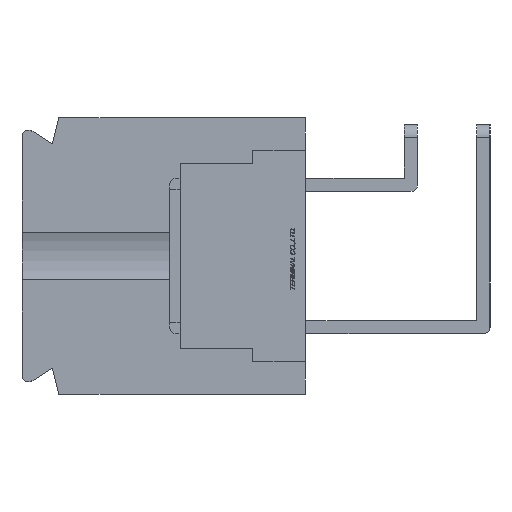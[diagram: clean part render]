
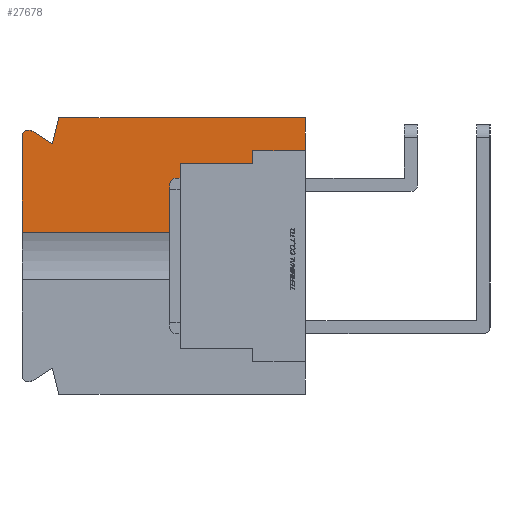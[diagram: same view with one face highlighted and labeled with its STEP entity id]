
A CAD part, left-side view. The second image highlights one B-rep face of the part: STEP entity #27678.
In plain terms, the highlighted planar face has unit normal (-1, 0, 0).
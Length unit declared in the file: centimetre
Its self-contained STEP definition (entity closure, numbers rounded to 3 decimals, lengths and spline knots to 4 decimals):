
#1251=CIRCLE('',#46389,0.05);
#1569=VERTEX_POINT('',#35920);
#1570=VERTEX_POINT('',#35922);
#3300=VERTEX_POINT('',#41406);
#3301=VERTEX_POINT('',#41408);
#3306=VERTEX_POINT('',#41419);
#3308=VERTEX_POINT('',#41425);
#3310=VERTEX_POINT('',#41431);
#3311=VERTEX_POINT('',#41438);
#3312=VERTEX_POINT('',#41440);
#3313=VERTEX_POINT('',#41442);
#3314=VERTEX_POINT('',#41444);
#4410=VECTOR('',#29706,1.);
#6380=VECTOR('',#33810,1.);
#6385=VECTOR('',#33824,1.);
#6388=VECTOR('',#33828,1.);
#6391=VECTOR('',#33832,1.);
#6392=VECTOR('',#33834,1.);
#6393=VECTOR('',#33835,1.);
#6394=VECTOR('',#33836,1.);
#6395=VECTOR('',#33837,1.);
#6396=VECTOR('',#33838,1.);
#7643=LINE('',#35921,#4410);
#9613=LINE('',#41407,#6380);
#9618=LINE('',#41424,#6385);
#9621=LINE('',#41430,#6388);
#9624=LINE('',#41435,#6391);
#9625=LINE('',#41437,#6392);
#9626=LINE('',#41439,#6393);
#9627=LINE('',#41441,#6394);
#9628=LINE('',#41443,#6395);
#9629=LINE('',#41445,#6396);
#10926=EDGE_CURVE('',#1569,#1570,#7643,.T.);
#13543=EDGE_CURVE('',#3300,#3301,#9613,.T.);
#13550=EDGE_CURVE('',#3301,#3306,#1251,.T.);
#13553=EDGE_CURVE('',#3306,#3308,#9618,.T.);
#13556=EDGE_CURVE('',#3308,#3310,#9621,.T.);
#13559=EDGE_CURVE('',#3310,#1569,#9624,.T.);
#13560=EDGE_CURVE('',#3311,#1570,#9625,.T.);
#13561=EDGE_CURVE('',#3300,#3312,#9626,.T.);
#13562=EDGE_CURVE('',#3312,#3313,#9627,.T.);
#13563=EDGE_CURVE('',#3313,#3314,#9628,.T.);
#13564=EDGE_CURVE('',#3314,#3311,#9629,.T.);
#20622=ORIENTED_EDGE('',*,*,#13560,.T.);
#20623=ORIENTED_EDGE('',*,*,#10926,.F.);
#20624=ORIENTED_EDGE('',*,*,#13559,.F.);
#20625=ORIENTED_EDGE('',*,*,#13556,.F.);
#20626=ORIENTED_EDGE('',*,*,#13553,.F.);
#20627=ORIENTED_EDGE('',*,*,#13550,.F.);
#20628=ORIENTED_EDGE('',*,*,#13543,.F.);
#20629=ORIENTED_EDGE('',*,*,#13561,.T.);
#20630=ORIENTED_EDGE('',*,*,#13562,.T.);
#20631=ORIENTED_EDGE('',*,*,#13563,.T.);
#20632=ORIENTED_EDGE('',*,*,#13564,.T.);
#24368=EDGE_LOOP('',(#20622,#20623,#20624,#20625,#20626,#20627,#20628,#20629,
#20630,#20631,#20632));
#26086=FACE_BOUND('',#24368,.T.);
#27678=ADVANCED_FACE('',(#26086),#28930,.F.);
#28930=PLANE('',#46393);
#29706=DIRECTION('',(0.,0.,-1.));
#33810=DIRECTION('',(0.,0.,1.));
#33819=DIRECTION('',(1.,0.,0.));
#33820=DIRECTION('',(0.,0.,-0.05));
#33824=DIRECTION('',(0.,-0.844,-0.536));
#33828=DIRECTION('',(0.,-0.243,0.97));
#33832=DIRECTION('',(0.,-1.,0.));
#33833=DIRECTION('',(1.,0.,0.));
#33834=DIRECTION('',(0.,-1.,0.));
#33835=DIRECTION('',(0.,-1.,0.));
#33836=DIRECTION('',(0.,0.,1.));
#33837=DIRECTION('',(0.,-1.,0.));
#33838=DIRECTION('',(0.,0.,1.));
#35920=CARTESIAN_POINT('',(-1.1,0.,1.05));
#35921=CARTESIAN_POINT('',(-1.1,0.,1.05));
#35922=CARTESIAN_POINT('',(-1.1,0.,0.8));
#41406=CARTESIAN_POINT('',(-1.1,2.15,0.1809));
#41407=CARTESIAN_POINT('',(-1.1,2.15,-0.905));
#41408=CARTESIAN_POINT('',(-1.1,2.15,0.905));
#41418=CARTESIAN_POINT('',(-1.1,2.1,0.905));
#41419=CARTESIAN_POINT('',(-1.1,2.0742,0.9478));
#41424=CARTESIAN_POINT('',(-1.1,2.0742,0.9478));
#41425=CARTESIAN_POINT('',(-1.1,1.92,0.85));
#41430=CARTESIAN_POINT('',(-1.1,1.92,0.85));
#41431=CARTESIAN_POINT('',(-1.1,1.87,1.05));
#41435=CARTESIAN_POINT('',(-1.1,1.87,1.05));
#41436=CARTESIAN_POINT('',(-1.1,1.082,0.));
#41437=CARTESIAN_POINT('',(-1.1,0.641,0.8));
#41438=CARTESIAN_POINT('',(-1.1,0.4,0.8));
#41439=CARTESIAN_POINT('',(-1.1,1.55,0.1809));
#41440=CARTESIAN_POINT('',(-1.1,0.95,0.1809));
#41441=CARTESIAN_POINT('',(-1.1,0.95,0.));
#41442=CARTESIAN_POINT('',(-1.1,0.95,0.7));
#41443=CARTESIAN_POINT('',(-1.1,0.8785,0.7));
#41444=CARTESIAN_POINT('',(-1.1,0.4,0.7));
#41445=CARTESIAN_POINT('',(-1.1,0.4,0.375));
#46389=AXIS2_PLACEMENT_3D('',#41418,#33819,#33820);
#46393=AXIS2_PLACEMENT_3D('',#41436,#33833,$);
